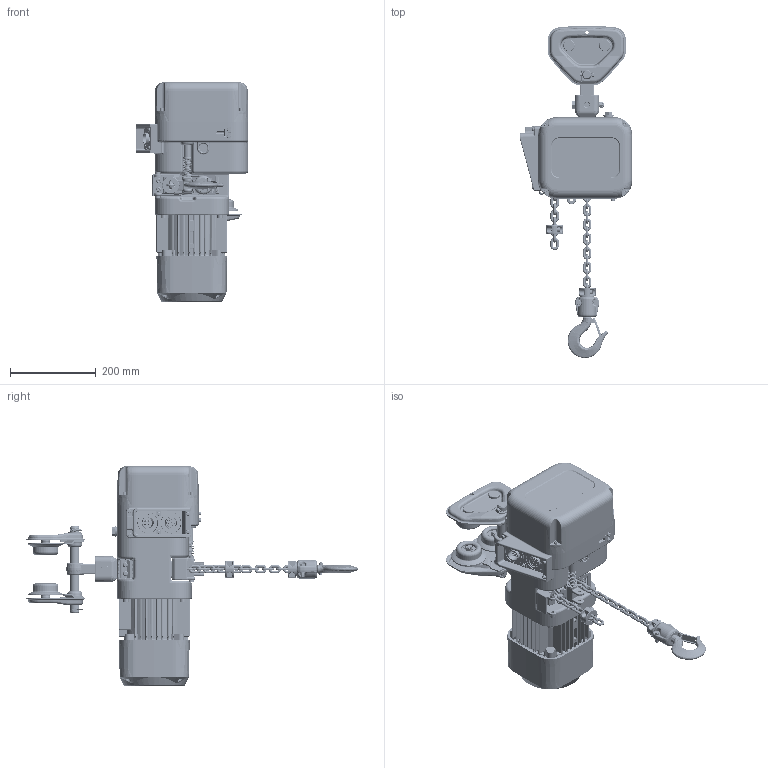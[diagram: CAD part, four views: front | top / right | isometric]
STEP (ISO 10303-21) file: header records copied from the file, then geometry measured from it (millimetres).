
FILE_DESCRIPTION (( 'STEP AP214' ), '1' );
FILE_NAME ('NER2P005L.STEP', '2026-08-04T17:52:48', ( '' ), ( '' ), 'SwSTEP 2.0', 'SolidWorks 2026', '' );
FILE_SCHEMA (( 'AUTOMOTIVE_DESIGN' ));
Length unit declared in the file: inch
Products named in the file (65): J1BY9-0602525_B18.2.3.1M - Hex cap screw, M6 x 1.0 x 25 --25C; split pin (metric) as_9009414-5; ER1CS1041; MS561010; ER2CS9103; ER2CS1002; Socket Head Cap Screw_AM_B18.3.1M - 6 x 1.0 x 12 Hex SHCS -- 12CHX; ER2CS2564; T6G5112005; ER2CS9357; T6G800005P; NER2P005L; E3S112003; T7GB004010; 6202Z Bearing; ER2CS2523; ES558003; hexagon slotted nut low_1 small_jis_L3183008; T6PA0059113; ER1BS9135; T7G117005; J1WS011-20060_Rectangular section spring washer BS 4464 - 16 (Type B); single coil rectangular section spring washer_bsi_Rectangular section spring washer BS 4464 - 16 (Type B); 9091234_B18.3.1M - 5 x 0.8 x 45 Hex SHCS -- 22CHX; ER2CS9104_ER2CS9104; ER2CS9123; ER2CS9027; ES127005S; ER2CS1011; 9009413_9009413; M6F554010; 9091251_9091251; 9009423_9009423; NER2005L_FOR PUSH TROLLEY; T6G156005; ER2CS9332; ER2CL9105; T6G5102005; ER1CS9032; ER2CS9511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
Assembly tree (139 placements, depth 5):
  NER2P005L
    PTF2005_4" FLANGE
      T6G5112005  x2
        T6PA0059112
        T6PA0059103
        T6PA0059113
      T7G115005
      T6G5102005  x4
        T6PA0059102
        6202Z Bearing
      9009413_9009413  x4
      T7G117005
      T6G156005  x2
      9009423_9009423  x2
      T6G800005P
      L3183008_L3183008  x4
    NER2005L_FOR PUSH TROLLEY
      ER2CS9104_ER2CS9104
      ER2CL9105
      ER2CL9107_ER2CL9107
      ER2CS9101
      ER2CS9103
      ER2CS1011
        ER2CS9011
        ER2CS1002
        ER2CS2015
          ER2CS9015  x2
          J1BY9-0602525_B18.2.3.1M - Hex cap screw, M6 x 1.0 x 25 --25C  x2
          J1WS011-20060_Rectangular section spring washer BS 4464 - 16 (Type B)  x2
          J1NA001-20060_B18.2.4.1M - Hex nut, Style 1,  M6 x 1 --D-C  x2
      ER2CS9331
      ER2CS9337
      ER2CS9338
      ER2CS9357
      ER2CS9121  x2
      ER1CS1041  x2
      ER2CS9186
      ER2CS9123
      LCER2005NP  x2
        LCER2005NP
      ER2CS9511
      ER2CS2523
      ER2CS2564
      ES127005S
      ER1BS9135
      E3S112003  x2
      E3S111003  x2
      9091234_B18.3.1M - 5 x 0.8 x 45 Hex SHCS -- 22CHX  x4
      9091275_B18.3.1M - 8 x 1.25 x 35 Hex SHCS -- 35CHX  x4
      Socket Head Cap Screw_AM_B18.3.1M - 6 x 1.0 x 12 Hex SHCS -- 12CHX
      single coil rectangular section spring washer_bsi_Rectangular section spring washer BS 4464 - 16 (Type B)  x4
      9091251_9091251  x4
      MS561010  x6
      ES558003  x8
      LCER2005NP (SHAPED)
        LCER2005NP  x6
      ER2BHM05S9A5
      ER1BS9535
      M6F554010  x2
      J1BG10504022_J1BG10504022  x4
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Bounding box: 263 x 774.87 x 512.1 mm (x, y, z)
Volume: 10233821.4 mm3; surface area: 1561835.6 mm2
Topology: 164 solids, 180 shells, 9150 faces, 23347 edges, 14542 vertices
Faces by surface type: plane 3368, cylinder 2932, torus 1191, bspline 849, cone 681, sphere 129
Entity records: 219774 total; most frequent: CARTESIAN_POINT 77239, ORIENTED_EDGE 29262, DIRECTION 28688, EDGE_CURVE 14633, AXIS2_PLACEMENT_3D 11241, VERTEX_POINT 9237, VECTOR 6206, LINE 6206
